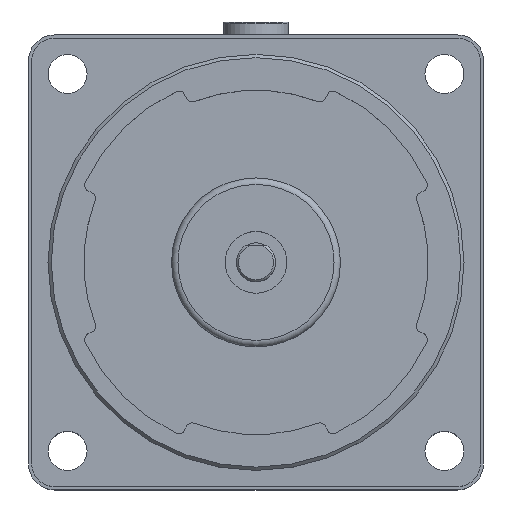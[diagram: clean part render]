
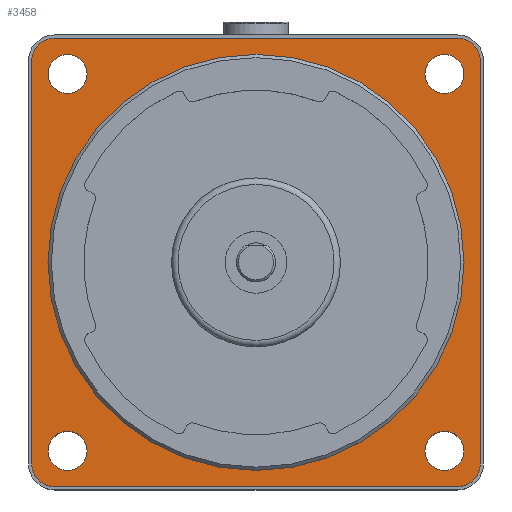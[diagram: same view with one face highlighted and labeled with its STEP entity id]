
A CAD part, top view. The second image highlights one B-rep face of the part: STEP entity #3458.
In plain terms, the highlighted planar face has unit normal (0, 0, 1).
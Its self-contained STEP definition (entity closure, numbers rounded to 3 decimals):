
#14 = AXIS2_PLACEMENT_3D ( 'NONE', #2049, #3480, #2651 ) ;
#28 = AXIS2_PLACEMENT_3D ( 'NONE', #2019, #402, #2351 ) ;
#51 = ORIENTED_EDGE ( 'NONE', *, *, #1053, .T. ) ;
#55 = CARTESIAN_POINT ( 'NONE',  ( 31., -34.5, 0. ) ) ;
#71 = VECTOR ( 'NONE', #2906, 1000. ) ;
#131 = CARTESIAN_POINT ( 'NONE',  ( 31., -31., 0. ) ) ;
#155 = ORIENTED_EDGE ( 'NONE', *, *, #330, .T. ) ;
#196 = CIRCLE ( 'NONE', #28, 3.5 ) ;
#220 = ORIENTED_EDGE ( 'NONE', *, *, #3504, .T. ) ;
#280 = ORIENTED_EDGE ( 'NONE', *, *, #284, .F. ) ;
#284 = EDGE_CURVE ( 'NONE', #2056, #2056, #2133, .T. ) ;
#321 = VERTEX_POINT ( 'NONE', #2890 ) ;
#330 = EDGE_CURVE ( 'NONE', #2931, #3203, #3519, .T. ) ;
#359 = EDGE_CURVE ( 'NONE', #2732, #2453, #2475, .T. ) ;
#368 = FACE_OUTER_BOUND ( 'NONE', #2062, .T. ) ;
#380 = EDGE_LOOP ( 'NONE', ( #861 ) ) ;
#397 = ORIENTED_EDGE ( 'NONE', *, *, #2469, .T. ) ;
#402 = DIRECTION ( 'NONE',  ( 0., 0., 1. ) ) ;
#404 = AXIS2_PLACEMENT_3D ( 'NONE', #1579, #1338, #1317 ) ;
#508 = ORIENTED_EDGE ( 'NONE', *, *, #1650, .F. ) ;
#520 = VERTEX_POINT ( 'NONE', #2479 ) ;
#524 = DIRECTION ( 'NONE',  ( -1., 0., 0. ) ) ;
#569 = EDGE_CURVE ( 'NONE', #2453, #2931, #888, .T. ) ;
#581 = LINE ( 'NONE', #1654, #1334 ) ;
#608 = AXIS2_PLACEMENT_3D ( 'NONE', #1518, #1765, #955 ) ;
#612 = FACE_BOUND ( 'NONE', #2189, .T. ) ;
#617 = DIRECTION ( 'NONE',  ( 0., 1., 0. ) ) ;
#708 = ORIENTED_EDGE ( 'NONE', *, *, #569, .T. ) ;
#762 = EDGE_LOOP ( 'NONE', ( #280 ) ) ;
#779 = EDGE_LOOP ( 'NONE', ( #2008 ) ) ;
#787 = CARTESIAN_POINT ( 'NONE',  ( -34.5, 31., 0. ) ) ;
#861 = ORIENTED_EDGE ( 'NONE', *, *, #2104, .F. ) ;
#876 = AXIS2_PLACEMENT_3D ( 'NONE', #3014, #1131, #1640 ) ;
#888 = LINE ( 'NONE', #1953, #1793 ) ;
#896 = FACE_BOUND ( 'NONE', #762, .T. ) ;
#907 = CARTESIAN_POINT ( 'NONE',  ( -34.5, -31., 0. ) ) ;
#954 = LINE ( 'NONE', #2086, #71 ) ;
#955 = DIRECTION ( 'NONE',  ( 1., 0., 0. ) ) ;
#968 = DIRECTION ( 'NONE',  ( 1., 0., 0. ) ) ;
#987 = CARTESIAN_POINT ( 'NONE',  ( 31., 34.5, 0. ) ) ;
#1053 = EDGE_CURVE ( 'NONE', #3203, #321, #2975, .T. ) ;
#1055 = CARTESIAN_POINT ( 'NONE',  ( 31.991, -28.991, 0. ) ) ;
#1059 = CARTESIAN_POINT ( 'NONE',  ( 31., 34.5, 0. ) ) ;
#1110 = CIRCLE ( 'NONE', #1944, 3. ) ;
#1128 = DIRECTION ( 'NONE',  ( 0., 0., 1. ) ) ;
#1131 = DIRECTION ( 'NONE',  ( 0., 0., 1. ) ) ;
#1226 = DIRECTION ( 'NONE',  ( 0., 0., 1. ) ) ;
#1274 = CARTESIAN_POINT ( 'NONE',  ( 34.5, 31., 0. ) ) ;
#1317 = DIRECTION ( 'NONE',  ( 1., 0., 0. ) ) ;
#1334 = VECTOR ( 'NONE', #2755, 1000. ) ;
#1338 = DIRECTION ( 'NONE',  ( 0., 0., 1. ) ) ;
#1380 = CIRCLE ( 'NONE', #404, 3.5 ) ;
#1420 = FACE_BOUND ( 'NONE', #779, .T. ) ;
#1451 = DIRECTION ( 'NONE',  ( 0., 0., 1. ) ) ;
#1513 = DIRECTION ( 'NONE',  ( 0., 0., 1. ) ) ;
#1518 = CARTESIAN_POINT ( 'NONE',  ( 0., 0., 0. ) ) ;
#1536 = DIRECTION ( 'NONE',  ( 0., 0., 1. ) ) ;
#1579 = CARTESIAN_POINT ( 'NONE',  ( -31., 31., 0. ) ) ;
#1640 = DIRECTION ( 'NONE',  ( 0., 1., 0. ) ) ;
#1650 = EDGE_CURVE ( 'NONE', #2385, #2385, #2409, .T. ) ;
#1654 = CARTESIAN_POINT ( 'NONE',  ( -34.5, 31., 0. ) ) ;
#1657 = CIRCLE ( 'NONE', #14, 3. ) ;
#1662 = EDGE_CURVE ( 'NONE', #2574, #1884, #581, .T. ) ;
#1765 = DIRECTION ( 'NONE',  ( 0., 0., 1. ) ) ;
#1793 = VECTOR ( 'NONE', #617, 1000. ) ;
#1884 = VERTEX_POINT ( 'NONE', #907 ) ;
#1897 = CARTESIAN_POINT ( 'NONE',  ( 28.991, 31.991, 0. ) ) ;
#1912 = VERTEX_POINT ( 'NONE', #3542 ) ;
#1944 = AXIS2_PLACEMENT_3D ( 'NONE', #2678, #1128, #524 ) ;
#1953 = CARTESIAN_POINT ( 'NONE',  ( 34.5, -31., 0. ) ) ;
#1954 = AXIS2_PLACEMENT_3D ( 'NONE', #3123, #1536, #2822 ) ;
#1988 = VECTOR ( 'NONE', #2745, 1000. ) ;
#1996 = CIRCLE ( 'NONE', #2465, 3. ) ;
#2008 = ORIENTED_EDGE ( 'NONE', *, *, #3253, .F. ) ;
#2019 = CARTESIAN_POINT ( 'NONE',  ( -31., -31., 0. ) ) ;
#2049 = CARTESIAN_POINT ( 'NONE',  ( -28.991, -28.991, 0. ) ) ;
#2056 = VERTEX_POINT ( 'NONE', #3153 ) ;
#2062 = EDGE_LOOP ( 'NONE', ( #708, #155, #51, #2730, #3260, #220, #397, #2756 ) ) ;
#2086 = CARTESIAN_POINT ( 'NONE',  ( -31., -34.5, 0. ) ) ;
#2104 = EDGE_CURVE ( 'NONE', #1912, #1912, #1657, .T. ) ;
#2133 = CIRCLE ( 'NONE', #608, 32. ) ;
#2134 = VERTEX_POINT ( 'NONE', #3525 ) ;
#2159 = EDGE_CURVE ( 'NONE', #321, #2574, #1380, .T. ) ;
#2189 = EDGE_LOOP ( 'NONE', ( #508 ) ) ;
#2351 = DIRECTION ( 'NONE',  ( 1., 0., 0. ) ) ;
#2385 = VERTEX_POINT ( 'NONE', #1897 ) ;
#2409 = CIRCLE ( 'NONE', #876, 3. ) ;
#2453 = VERTEX_POINT ( 'NONE', #2623 ) ;
#2465 = AXIS2_PLACEMENT_3D ( 'NONE', #3414, #1513, #968 ) ;
#2469 = EDGE_CURVE ( 'NONE', #520, #2732, #954, .T. ) ;
#2475 = CIRCLE ( 'NONE', #2873, 3.5 ) ;
#2479 = CARTESIAN_POINT ( 'NONE',  ( -31., -34.5, 0. ) ) ;
#2505 = CARTESIAN_POINT ( 'NONE',  ( 0., 0., 0. ) ) ;
#2538 = DIRECTION ( 'NONE',  ( 1., 0., 0. ) ) ;
#2574 = VERTEX_POINT ( 'NONE', #787 ) ;
#2589 = DIRECTION ( 'NONE',  ( 1., 0., 0. ) ) ;
#2623 = CARTESIAN_POINT ( 'NONE',  ( 34.5, -31., 0. ) ) ;
#2651 = DIRECTION ( 'NONE',  ( 0., -1., 0. ) ) ;
#2670 = ORIENTED_EDGE ( 'NONE', *, *, #3149, .F. ) ;
#2678 = CARTESIAN_POINT ( 'NONE',  ( -28.991, 28.991, 0. ) ) ;
#2730 = ORIENTED_EDGE ( 'NONE', *, *, #2159, .T. ) ;
#2732 = VERTEX_POINT ( 'NONE', #55 ) ;
#2745 = DIRECTION ( 'NONE',  ( -1., 0., 0. ) ) ;
#2755 = DIRECTION ( 'NONE',  ( 0., -1., 0. ) ) ;
#2756 = ORIENTED_EDGE ( 'NONE', *, *, #359, .T. ) ;
#2759 = AXIS2_PLACEMENT_3D ( 'NONE', #2505, #1451, #2538 ) ;
#2793 = PLANE ( 'NONE',  #2759 ) ;
#2822 = DIRECTION ( 'NONE',  ( 1., 0., 0. ) ) ;
#2873 = AXIS2_PLACEMENT_3D ( 'NONE', #131, #1226, #2589 ) ;
#2890 = CARTESIAN_POINT ( 'NONE',  ( -31., 34.5, 0. ) ) ;
#2906 = DIRECTION ( 'NONE',  ( 1., 0., 0. ) ) ;
#2931 = VERTEX_POINT ( 'NONE', #1274 ) ;
#2975 = LINE ( 'NONE', #1059, #1988 ) ;
#3014 = CARTESIAN_POINT ( 'NONE',  ( 28.991, 28.991, 0. ) ) ;
#3045 = FACE_BOUND ( 'NONE', #380, .T. ) ;
#3121 = EDGE_LOOP ( 'NONE', ( #2670 ) ) ;
#3123 = CARTESIAN_POINT ( 'NONE',  ( 31., 31., 0. ) ) ;
#3149 = EDGE_CURVE ( 'NONE', #3507, #3507, #1996, .T. ) ;
#3153 = CARTESIAN_POINT ( 'NONE',  ( 32., 0., 0. ) ) ;
#3203 = VERTEX_POINT ( 'NONE', #987 ) ;
#3253 = EDGE_CURVE ( 'NONE', #2134, #2134, #1110, .T. ) ;
#3260 = ORIENTED_EDGE ( 'NONE', *, *, #1662, .T. ) ;
#3300 = FACE_BOUND ( 'NONE', #3121, .T. ) ;
#3414 = CARTESIAN_POINT ( 'NONE',  ( 28.991, -28.991, 0. ) ) ;
#3458 = ADVANCED_FACE ( 'NONE', ( #896, #3045, #1420, #612, #3300, #368 ), #2793, .T. ) ;
#3480 = DIRECTION ( 'NONE',  ( 0., 0., 1. ) ) ;
#3504 = EDGE_CURVE ( 'NONE', #1884, #520, #196, .T. ) ;
#3507 = VERTEX_POINT ( 'NONE', #1055 ) ;
#3519 = CIRCLE ( 'NONE', #1954, 3.5 ) ;
#3525 = CARTESIAN_POINT ( 'NONE',  ( -31.991, 28.991, 0. ) ) ;
#3542 = CARTESIAN_POINT ( 'NONE',  ( -28.991, -31.991, 0. ) ) ;
